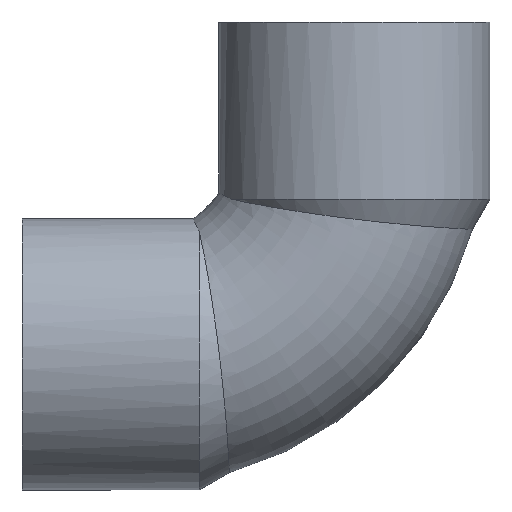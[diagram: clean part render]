
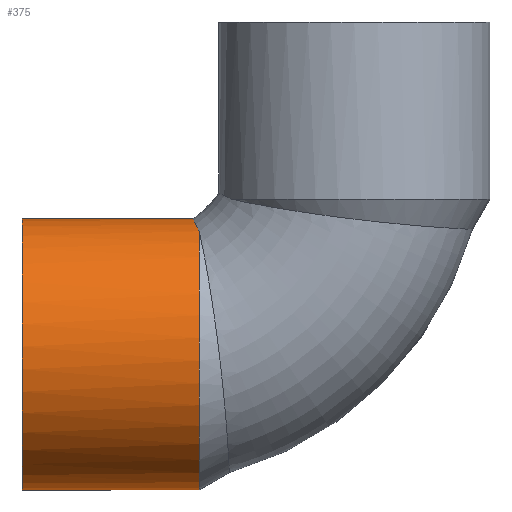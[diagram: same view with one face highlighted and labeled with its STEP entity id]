
A CAD part, top view. The second image highlights one B-rep face of the part: STEP entity #375.
In plain terms, the highlighted cylindrical face has radius 12 mm (diameter 24 mm), a partial arc.
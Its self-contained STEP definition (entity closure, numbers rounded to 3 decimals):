
#161=CARTESIAN_POINT('',(5.122,-7.4,0.));
#162=VERTEX_POINT('',#161);
#253=CARTESIAN_POINT('',(5.668,-31.4,0.));
#254=VERTEX_POINT('',#253);
#261=CARTESIAN_POINT('',(5.668,-8.517,5.055));
#262=VERTEX_POINT('',#261);
#284=CARTESIAN_POINT('',(5.668,-19.4,0.0));
#285=DIRECTION('',(-1.0,0.0,0.0));
#286=DIRECTION('',(0.0,-1.0,0.0));
#287=AXIS2_PLACEMENT_3D('',#284,#285,#286);
#288=CIRCLE('',#287,12.);
#289=EDGE_CURVE('',#254,#262,#288,.T.);
#326=CARTESIAN_POINT('',(-2.166,-19.4,0.0));
#327=DIRECTION('',(-1.0,0.,0.0));
#328=DIRECTION('',(0.0,-1.0,0.0));
#329=AXIS2_PLACEMENT_3D('',#326,#327,#328);
#330=CYLINDRICAL_SURFACE('',#329,12.);
#331=CARTESIAN_POINT('',(-10.,-31.4,0.));
#332=VERTEX_POINT('',#331);
#333=CARTESIAN_POINT('',(5.668,-31.4,0.));
#334=DIRECTION('',(-1.0,0.0,0.0));
#335=VECTOR('',#334,15.668);
#336=LINE('',#333,#335);
#337=EDGE_CURVE('',#254,#332,#336,.T.);
#338=ORIENTED_EDGE('',*,*,#337,.F.);
#339=ORIENTED_EDGE('',*,*,#289,.T.);
#340=CARTESIAN_POINT('',(5.122,-7.4,0.));
#341=CARTESIAN_POINT('',(5.122,-7.4,0.305));
#342=CARTESIAN_POINT('',(5.128,-7.412,0.611));
#343=CARTESIAN_POINT('',(5.191,-7.546,2.362));
#344=CARTESIAN_POINT('',(5.364,-7.919,3.769));
#345=CARTESIAN_POINT('',(5.668,-8.517,5.055));
#346=B_SPLINE_CURVE_WITH_KNOTS('',3,(#340,#341,#342,#343,#344,#345),.UNSPECIFIED.,.F.,.U.,(4,2,4),(-0.527,-0.435,0.0),.UNSPECIFIED.);
#347=EDGE_CURVE('',#162,#262,#346,.T.);
#348=ORIENTED_EDGE('',*,*,#347,.F.);
#349=CARTESIAN_POINT('',(-10.,-7.4,0.));
#350=VERTEX_POINT('',#349);
#351=CARTESIAN_POINT('',(-10.,-7.4,0.));
#352=DIRECTION('',(1.0,0.0,0.0));
#353=VECTOR('',#352,15.122);
#354=LINE('',#351,#353);
#355=EDGE_CURVE('',#350,#162,#354,.T.);
#356=ORIENTED_EDGE('',*,*,#355,.F.);
#357=CARTESIAN_POINT('',(-10.,-27.885,8.485));
#358=VERTEX_POINT('',#357);
#359=CARTESIAN_POINT('',(-10.0,-19.4,0.0));
#360=DIRECTION('',(-1.0,0.0,0.0));
#361=DIRECTION('',(0.0,-1.0,0.0));
#362=AXIS2_PLACEMENT_3D('',#359,#360,#361);
#363=CIRCLE('',#362,12.);
#364=EDGE_CURVE('',#358,#350,#363,.T.);
#365=ORIENTED_EDGE('',*,*,#364,.F.);
#366=CARTESIAN_POINT('',(-10.0,-19.4,0.0));
#367=DIRECTION('',(-1.0,0.0,0.0));
#368=DIRECTION('',(0.0,-1.0,0.0));
#369=AXIS2_PLACEMENT_3D('',#366,#367,#368);
#370=CIRCLE('',#369,12.);
#371=EDGE_CURVE('',#332,#358,#370,.T.);
#372=ORIENTED_EDGE('',*,*,#371,.F.);
#373=EDGE_LOOP('',(#338,#339,#348,#356,#365,#372));
#374=FACE_OUTER_BOUND('',#373,.T.);
#375=ADVANCED_FACE('',(#374),#330,.T.);
